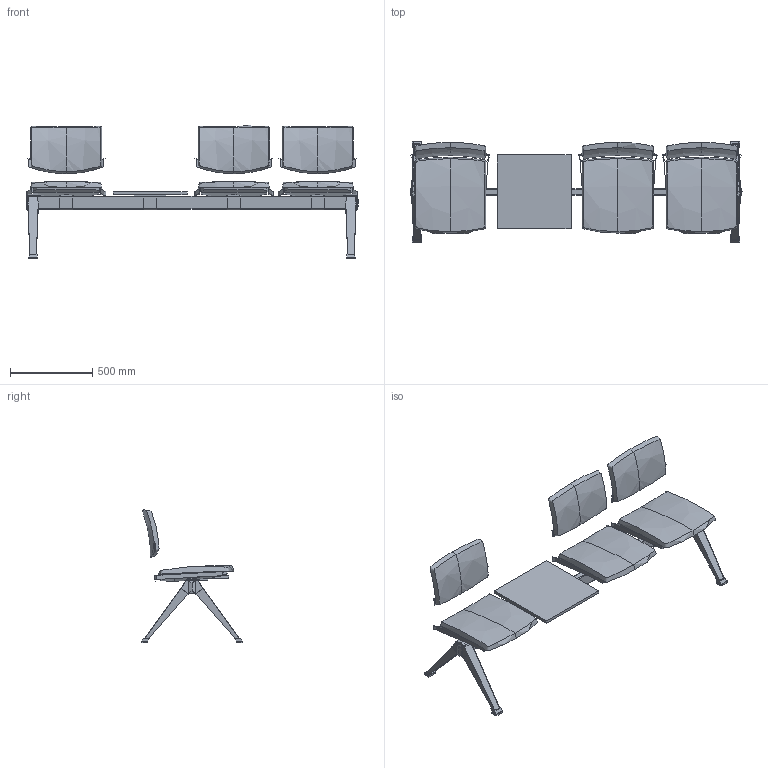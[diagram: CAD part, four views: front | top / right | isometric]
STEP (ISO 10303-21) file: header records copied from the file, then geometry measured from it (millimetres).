
FILE_DESCRIPTION(/* description */ (''),/* implementation_level */ '2;1');
FILE_NAME(/* name */ 'Seance 099-3T',/* time_stamp */ '2020-03-26T13:54:00+01:00',/* author */ (''),/* organization */ (''),/* preprocessor_version */ 'ST-DEVELOPER v16.5',/* originating_system */ '',/* authorisation */ '');
FILE_SCHEMA (('AUTOMOTIVE_DESIGN'));
Length unit declared in the file: millimetre
Products named in the file (1): Document
Bounding box: 2020 x 620 x 812.42 mm (x, y, z)
Volume: 41956031.8 mm3; surface area: 4890560.4 mm2
Topology: 41 solids, 49 shells, 502 faces, 1198 edges, 767 vertices
Faces by surface type: bspline 254, plane 248
Entity records: 20182 total; most frequent: CARTESIAN_POINT 12333, ORIENTED_EDGE 2252, EDGE_CURVE 1170, B_SPLINE_CURVE_WITH_KNOTS 968, VERTEX_POINT 753, ADVANCED_FACE 502, FACE_OUTER_BOUND 502, EDGE_LOOP 502
